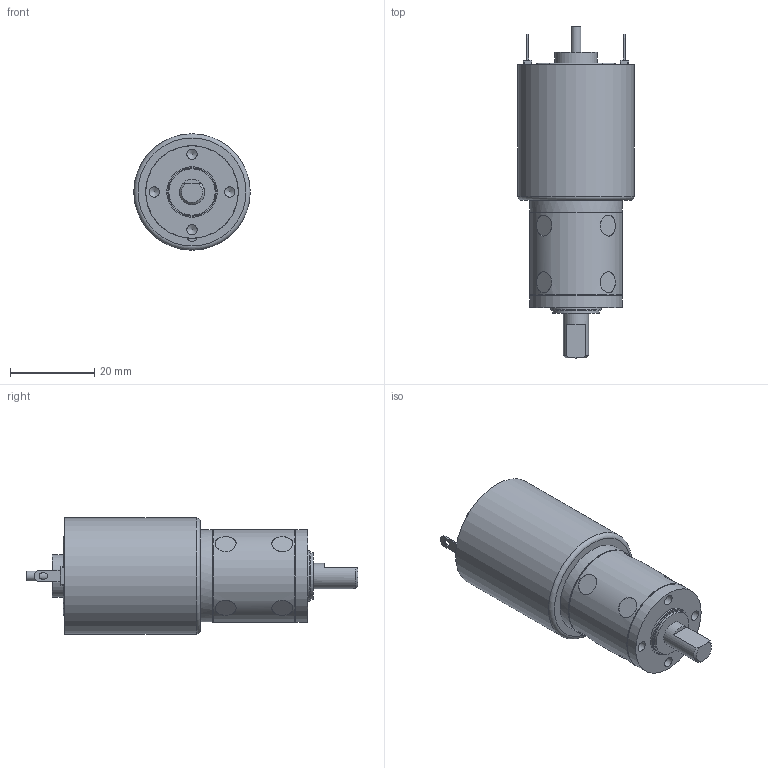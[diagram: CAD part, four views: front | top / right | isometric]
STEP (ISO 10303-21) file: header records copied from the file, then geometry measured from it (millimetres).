
FILE_DESCRIPTION((''),'2;1');
FILE_NAME('C:\Documents and Settings\SSEGAWA\デスクトップ\TP-2732D-KP-2.STP','2013-08-01T11:15:15',('SSEGAWA'),(''),'Autodesk Inventor 2010','Autodesk Inventor 2010','');
FILE_SCHEMA(('CONFIG_CONTROL_DESIGN'));
Length unit declared in the file: millimetre
Products named in the file (1): tp_2732def_kp_2_Shrinkwrap_1
Bounding box: 27.7 x 79 x 27.7 mm (x, y, z)
Volume: 29595.5 mm3; surface area: 6629.5 mm2
Topology: 1 solids, 3 shells, 160 faces, 346 edges, 224 vertices
Faces by surface type: plane 91, cylinder 36, bspline 29, torus 3, cone 1
Full cylindrical faces by diameter (mm): 2 x2, 2.305 x1, 2.5 x5, 5 x4, 6 x1, 9 x1, 10 x1, 11 x1, 11.5 x1, 12 x1, 19 x1, 21.6 x2, 22 x3, 26.7 x1, 27.7 x1
Entity records: 4631 total; most frequent: CARTESIAN_POINT 1275, DIRECTION 632, ORIENTED_EDGE 568, EDGE_CURVE 284, EDGE_LOOP 241, AXIS2_PLACEMENT_3D 234, VERTEX_POINT 207, VECTOR 164
